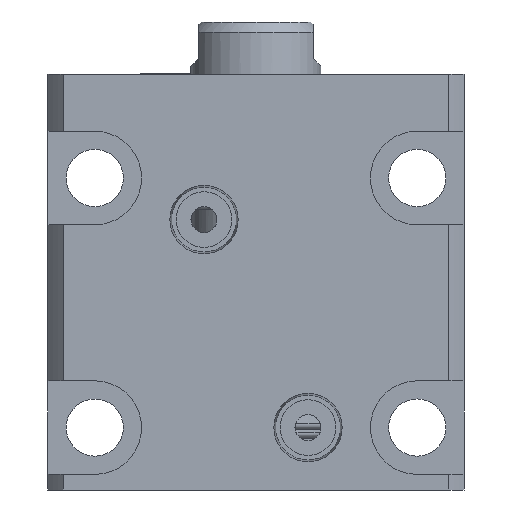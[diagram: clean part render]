
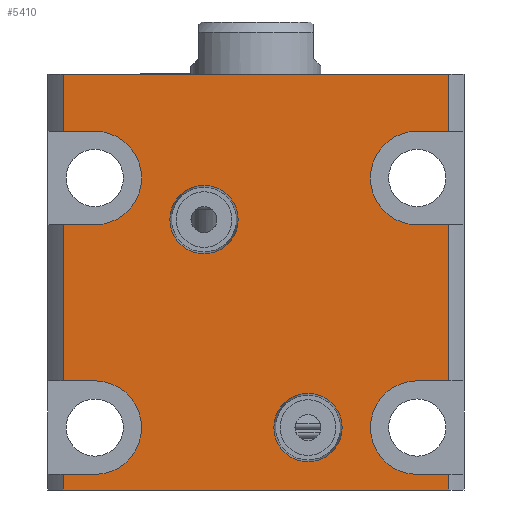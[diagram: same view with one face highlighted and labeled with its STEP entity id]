
A CAD part, front view. The second image highlights one B-rep face of the part: STEP entity #5410.
In plain terms, the highlighted planar face has unit normal (0, -1, 0).
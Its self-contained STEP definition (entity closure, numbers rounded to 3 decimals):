
#2937=PLANE('',#10976);
#3247=LINE('',#15688,#4089);
#3248=LINE('',#15691,#4090);
#3249=LINE('',#15693,#4091);
#3250=LINE('',#15695,#4092);
#3251=LINE('',#15699,#4093);
#3252=LINE('',#15701,#4094);
#3253=LINE('',#15703,#4095);
#3254=LINE('',#15707,#4096);
#3255=LINE('',#15709,#4097);
#3256=LINE('',#15711,#4098);
#3257=LINE('',#15713,#4099);
#3258=LINE('',#15715,#4100);
#3259=LINE('',#15719,#4101);
#3260=LINE('',#15721,#4102);
#3261=LINE('',#15723,#4103);
#3262=LINE('',#15727,#4104);
#4089=VECTOR('',#11580,1.);
#4090=VECTOR('',#11581,1.);
#4091=VECTOR('',#11582,1.);
#4092=VECTOR('',#11583,1.);
#4093=VECTOR('',#11586,1.);
#4094=VECTOR('',#11587,1.);
#4095=VECTOR('',#11588,1.);
#4096=VECTOR('',#11591,1.);
#4097=VECTOR('',#11592,1.);
#4098=VECTOR('',#11593,1.);
#4099=VECTOR('',#11594,1.);
#4100=VECTOR('',#11595,1.);
#4101=VECTOR('',#11598,1.);
#4102=VECTOR('',#11599,1.);
#4103=VECTOR('',#11600,1.);
#4104=VECTOR('',#11603,1.);
#5410=ADVANCED_FACE('',(#5895,#5896,#5897),#2937,.F.);
#5895=FACE_BOUND('',#6075,.T.);
#5896=FACE_BOUND('',#6076,.T.);
#5897=FACE_BOUND('',#6077,.T.);
#6075=EDGE_LOOP('',(#6734));
#6076=EDGE_LOOP('',(#6735));
#6077=EDGE_LOOP('',(#6736,#6737,#6738,#6739,#6740,#6741,#6742,#6743,#6744,
#6745,#6746,#6747,#6748,#6749,#6750,#6751,#6752,#6753,#6754,#6755));
#6734=ORIENTED_EDGE('',*,*,#9721,.F.);
#6735=ORIENTED_EDGE('',*,*,#9725,.F.);
#6736=ORIENTED_EDGE('',*,*,#9741,.F.);
#6737=ORIENTED_EDGE('',*,*,#9742,.T.);
#6738=ORIENTED_EDGE('',*,*,#9743,.F.);
#6739=ORIENTED_EDGE('',*,*,#9744,.F.);
#6740=ORIENTED_EDGE('',*,*,#9745,.F.);
#6741=ORIENTED_EDGE('',*,*,#9746,.T.);
#6742=ORIENTED_EDGE('',*,*,#9747,.F.);
#6743=ORIENTED_EDGE('',*,*,#9748,.F.);
#6744=ORIENTED_EDGE('',*,*,#9749,.F.);
#6745=ORIENTED_EDGE('',*,*,#9750,.T.);
#6746=ORIENTED_EDGE('',*,*,#9751,.F.);
#6747=ORIENTED_EDGE('',*,*,#9752,.F.);
#6748=ORIENTED_EDGE('',*,*,#9753,.F.);
#6749=ORIENTED_EDGE('',*,*,#9754,.F.);
#6750=ORIENTED_EDGE('',*,*,#9755,.F.);
#6751=ORIENTED_EDGE('',*,*,#9756,.T.);
#6752=ORIENTED_EDGE('',*,*,#9757,.F.);
#6753=ORIENTED_EDGE('',*,*,#9758,.F.);
#6754=ORIENTED_EDGE('',*,*,#9759,.F.);
#6755=ORIENTED_EDGE('',*,*,#9760,.T.);
#8912=VERTEX_POINT('',#15640);
#8916=VERTEX_POINT('',#15650);
#8931=VERTEX_POINT('',#15689);
#8932=VERTEX_POINT('',#15690);
#8933=VERTEX_POINT('',#15692);
#8934=VERTEX_POINT('',#15694);
#8935=VERTEX_POINT('',#15696);
#8936=VERTEX_POINT('',#15698);
#8937=VERTEX_POINT('',#15700);
#8938=VERTEX_POINT('',#15702);
#8939=VERTEX_POINT('',#15704);
#8940=VERTEX_POINT('',#15706);
#8941=VERTEX_POINT('',#15708);
#8942=VERTEX_POINT('',#15710);
#8943=VERTEX_POINT('',#15712);
#8944=VERTEX_POINT('',#15714);
#8945=VERTEX_POINT('',#15716);
#8946=VERTEX_POINT('',#15718);
#8947=VERTEX_POINT('',#15720);
#8948=VERTEX_POINT('',#15722);
#8949=VERTEX_POINT('',#15724);
#8950=VERTEX_POINT('',#15726);
#9721=EDGE_CURVE('',#8912,#8912,#10798,.T.);
#9725=EDGE_CURVE('',#8916,#8916,#10802,.T.);
#9741=EDGE_CURVE('',#8931,#8932,#3247,.T.);
#9742=EDGE_CURVE('',#8931,#8933,#3248,.T.);
#9743=EDGE_CURVE('',#8934,#8933,#3249,.T.);
#9744=EDGE_CURVE('',#8935,#8934,#3250,.T.);
#9745=EDGE_CURVE('',#8936,#8935,#10818,.T.);
#9746=EDGE_CURVE('',#8936,#8937,#3251,.T.);
#9747=EDGE_CURVE('',#8938,#8937,#3252,.T.);
#9748=EDGE_CURVE('',#8939,#8938,#3253,.T.);
#9749=EDGE_CURVE('',#8940,#8939,#10819,.T.);
#9750=EDGE_CURVE('',#8940,#8941,#3254,.T.);
#9751=EDGE_CURVE('',#8942,#8941,#3255,.T.);
#9752=EDGE_CURVE('',#8943,#8942,#3256,.T.);
#9753=EDGE_CURVE('',#8944,#8943,#3257,.T.);
#9754=EDGE_CURVE('',#8945,#8944,#3258,.T.);
#9755=EDGE_CURVE('',#8946,#8945,#10820,.T.);
#9756=EDGE_CURVE('',#8946,#8947,#3259,.T.);
#9757=EDGE_CURVE('',#8948,#8947,#3260,.T.);
#9758=EDGE_CURVE('',#8949,#8948,#3261,.T.);
#9759=EDGE_CURVE('',#8950,#8949,#10821,.T.);
#9760=EDGE_CURVE('',#8950,#8932,#3262,.T.);
#10798=CIRCLE('',#10942,6.572);
#10802=CIRCLE('',#10948,6.572);
#10818=CIRCLE('',#10972,9.);
#10819=CIRCLE('',#10973,9.);
#10820=CIRCLE('',#10974,9.);
#10821=CIRCLE('',#10975,9.);
#10942=AXIS2_PLACEMENT_3D('',#15639,#11520,#11521);
#10948=AXIS2_PLACEMENT_3D('',#15649,#11532,#11533);
#10972=AXIS2_PLACEMENT_3D('',#15697,#11584,#11585);
#10973=AXIS2_PLACEMENT_3D('',#15705,#11589,#11590);
#10974=AXIS2_PLACEMENT_3D('',#15717,#11596,#11597);
#10975=AXIS2_PLACEMENT_3D('',#15725,#11601,#11602);
#10976=AXIS2_PLACEMENT_3D('',#15728,#11604,#11605);
#11520=DIRECTION('',(0.,-1.,0.));
#11521=DIRECTION('',(0.,0.,-1.));
#11532=DIRECTION('',(0.,-1.,0.));
#11533=DIRECTION('',(0.,0.,-1.));
#11580=DIRECTION('',(0.,0.,1.));
#11581=DIRECTION('',(1.,0.,0.));
#11582=DIRECTION('',(0.,0.,-1.));
#11583=DIRECTION('',(1.,0.,0.));
#11584=DIRECTION('',(0.,-1.,0.));
#11585=DIRECTION('',(0.,0.,-1.));
#11586=DIRECTION('',(1.,0.,0.));
#11587=DIRECTION('',(0.,0.,-1.));
#11588=DIRECTION('',(1.,0.,0.));
#11589=DIRECTION('',(0.,-1.,0.));
#11590=DIRECTION('',(0.,0.,-1.));
#11591=DIRECTION('',(1.,0.,0.));
#11592=DIRECTION('',(0.,0.,-1.));
#11593=DIRECTION('',(1.,0.,0.));
#11594=DIRECTION('',(0.,0.,1.));
#11595=DIRECTION('',(-1.,0.,0.));
#11596=DIRECTION('',(0.,-1.,0.));
#11597=DIRECTION('',(0.,0.,-1.));
#11598=DIRECTION('',(-1.,0.,0.));
#11599=DIRECTION('',(0.,0.,1.));
#11600=DIRECTION('',(-1.,0.,0.));
#11601=DIRECTION('',(0.,-1.,0.));
#11602=DIRECTION('',(0.,0.,-1.));
#11603=DIRECTION('',(-1.,0.,0.));
#11604=DIRECTION('',(0.,1.,0.));
#11605=DIRECTION('',(0.,0.,-1.));
#15639=CARTESIAN_POINT('',(-47.235,-35.442,12.));
#15640=CARTESIAN_POINT('',(-47.235,-35.442,5.428));
#15649=CARTESIAN_POINT('',(-27.235,-35.442,-28.));
#15650=CARTESIAN_POINT('',(-27.235,-35.442,-34.572));
#15688=CARTESIAN_POINT('',(-74.329,-35.442,-260.));
#15689=CARTESIAN_POINT('',(-74.329,-35.442,-40.));
#15690=CARTESIAN_POINT('',(-74.329,-35.442,-37.));
#15691=CARTESIAN_POINT('',(-77.235,-35.442,-40.));
#15692=CARTESIAN_POINT('',(-0.14,-35.442,-40.));
#15693=CARTESIAN_POINT('',(-0.14,-35.442,-260.));
#15694=CARTESIAN_POINT('',(-0.14,-35.442,-37.));
#15695=CARTESIAN_POINT('',(18.101,-35.442,-37.));
#15696=CARTESIAN_POINT('',(-6.235,-35.442,-37.));
#15697=CARTESIAN_POINT('',(-6.235,-35.442,-28.));
#15698=CARTESIAN_POINT('',(-6.235,-35.442,-19.));
#15699=CARTESIAN_POINT('',(-77.235,-35.442,-19.));
#15700=CARTESIAN_POINT('',(-0.14,-35.442,-19.));
#15701=CARTESIAN_POINT('',(-0.14,-35.442,-260.));
#15702=CARTESIAN_POINT('',(-0.14,-35.442,11.));
#15703=CARTESIAN_POINT('',(-6.235,-35.442,11.));
#15704=CARTESIAN_POINT('',(-6.235,-35.442,11.));
#15705=CARTESIAN_POINT('',(-6.235,-35.442,20.));
#15706=CARTESIAN_POINT('',(-6.235,-35.442,29.));
#15707=CARTESIAN_POINT('',(-77.235,-35.442,29.));
#15708=CARTESIAN_POINT('',(-0.14,-35.442,29.));
#15709=CARTESIAN_POINT('',(-0.14,-35.442,-260.));
#15710=CARTESIAN_POINT('',(-0.14,-35.442,40.));
#15711=CARTESIAN_POINT('',(-77.235,-35.442,40.));
#15712=CARTESIAN_POINT('',(-74.329,-35.442,40.));
#15713=CARTESIAN_POINT('',(-74.329,-35.442,-260.));
#15714=CARTESIAN_POINT('',(-74.329,-35.442,29.));
#15715=CARTESIAN_POINT('',(-68.235,-35.442,29.));
#15716=CARTESIAN_POINT('',(-68.235,-35.442,29.));
#15717=CARTESIAN_POINT('',(-68.235,-35.442,20.));
#15718=CARTESIAN_POINT('',(-68.235,-35.442,11.));
#15719=CARTESIAN_POINT('',(-77.235,-35.442,11.));
#15720=CARTESIAN_POINT('',(-74.329,-35.442,11.));
#15721=CARTESIAN_POINT('',(-74.329,-35.442,-260.));
#15722=CARTESIAN_POINT('',(-74.329,-35.442,-19.));
#15723=CARTESIAN_POINT('',(-95.847,-35.442,-19.));
#15724=CARTESIAN_POINT('',(-68.235,-35.442,-19.));
#15725=CARTESIAN_POINT('',(-68.235,-35.442,-28.));
#15726=CARTESIAN_POINT('',(-68.235,-35.442,-37.));
#15727=CARTESIAN_POINT('',(-77.235,-35.442,-37.));
#15728=CARTESIAN_POINT('',(-77.235,-35.442,40.));
